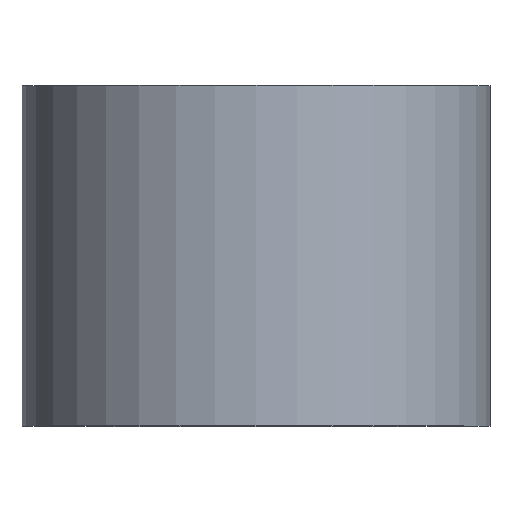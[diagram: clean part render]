
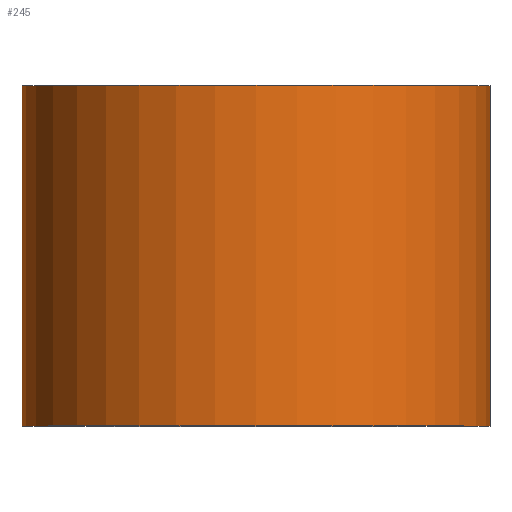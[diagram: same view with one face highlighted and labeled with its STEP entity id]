
A CAD part, top view. The second image highlights one B-rep face of the part: STEP entity #245.
In plain terms, the highlighted cylindrical face has radius 11 mm (diameter 22 mm), a partial arc.
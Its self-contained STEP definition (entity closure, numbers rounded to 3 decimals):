
#2 = DIRECTION ( 'NONE',  ( -1., 0., 0. ) ) ;
#3 = LINE ( 'NONE', #213, #66 ) ;
#4 = DIRECTION ( 'NONE',  ( 0., 1., 0. ) ) ;
#32 = EDGE_CURVE ( 'NONE', #175, #212, #3, .T. ) ;
#33 = CARTESIAN_POINT ( 'NONE',  ( -11., 0., 0. ) ) ;
#48 = CYLINDRICAL_SURFACE ( 'NONE', #60, 11. ) ;
#49 = FACE_OUTER_BOUND ( 'NONE', #285, .T. ) ;
#57 = CARTESIAN_POINT ( 'NONE',  ( 0., 0., 0. ) ) ;
#60 = AXIS2_PLACEMENT_3D ( 'NONE', #57, #261, #2 ) ;
#66 = VECTOR ( 'NONE', #161, 1000. ) ;
#70 = DIRECTION ( 'NONE',  ( -1., 0., 0. ) ) ;
#80 = EDGE_CURVE ( 'NONE', #175, #221, #108, .T. ) ;
#96 = CARTESIAN_POINT ( 'NONE',  ( -11., 16., 0. ) ) ;
#101 = EDGE_CURVE ( 'NONE', #212, #124, #251, .T. ) ;
#108 = CIRCLE ( 'NONE', #225, 11. ) ;
#112 = DIRECTION ( 'NONE',  ( -1., 0., 0. ) ) ;
#124 = VERTEX_POINT ( 'NONE', #234 ) ;
#157 = VECTOR ( 'NONE', #4, 1000. ) ;
#161 = DIRECTION ( 'NONE',  ( 0., 1., 0. ) ) ;
#169 = EDGE_CURVE ( 'NONE', #221, #124, #280, .T. ) ;
#175 = VERTEX_POINT ( 'NONE', #33 ) ;
#188 = CARTESIAN_POINT ( 'NONE',  ( 11., 0., 0. ) ) ;
#200 = ORIENTED_EDGE ( 'NONE', *, *, #169, .T. ) ;
#203 = ORIENTED_EDGE ( 'NONE', *, *, #101, .F. ) ;
#212 = VERTEX_POINT ( 'NONE', #96 ) ;
#213 = CARTESIAN_POINT ( 'NONE',  ( -11., 0., 0. ) ) ;
#221 = VERTEX_POINT ( 'NONE', #188 ) ;
#225 = AXIS2_PLACEMENT_3D ( 'NONE', #258, #300, #70 ) ;
#231 = DIRECTION ( 'NONE',  ( 0., 1., 0. ) ) ;
#234 = CARTESIAN_POINT ( 'NONE',  ( 11., 16., 0. ) ) ;
#243 = AXIS2_PLACEMENT_3D ( 'NONE', #259, #231, #112 ) ;
#245 = ADVANCED_FACE ( 'NONE', ( #49 ), #48, .T. ) ;
#251 = CIRCLE ( 'NONE', #243, 11. ) ;
#258 = CARTESIAN_POINT ( 'NONE',  ( 0., 0., 0. ) ) ;
#259 = CARTESIAN_POINT ( 'NONE',  ( 0., 16., 0. ) ) ;
#261 = DIRECTION ( 'NONE',  ( 0., 1., 0. ) ) ;
#274 = ORIENTED_EDGE ( 'NONE', *, *, #80, .T. ) ;
#280 = LINE ( 'NONE', #286, #157 ) ;
#285 = EDGE_LOOP ( 'NONE', ( #274, #200, #203, #292 ) ) ;
#286 = CARTESIAN_POINT ( 'NONE',  ( 11., 0., 0. ) ) ;
#292 = ORIENTED_EDGE ( 'NONE', *, *, #32, .F. ) ;
#300 = DIRECTION ( 'NONE',  ( 0., 1., 0. ) ) ;
